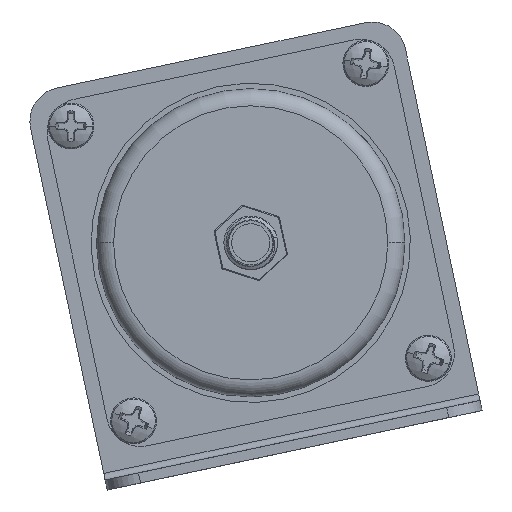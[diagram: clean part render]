
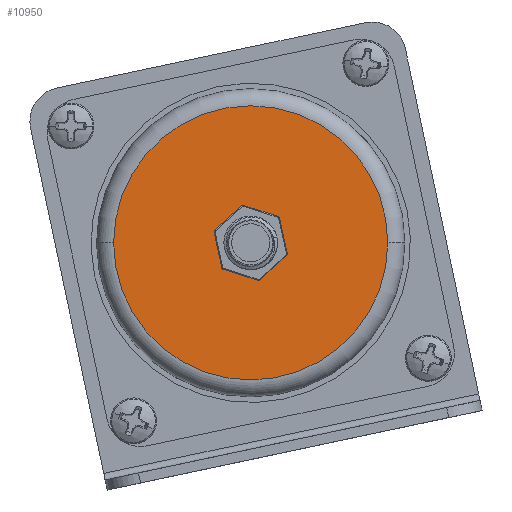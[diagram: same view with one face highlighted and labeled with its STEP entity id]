
A CAD part, left-side view. The second image highlights one B-rep face of the part: STEP entity #10950.
In plain terms, the highlighted planar face has unit normal (-1, 0, 0).
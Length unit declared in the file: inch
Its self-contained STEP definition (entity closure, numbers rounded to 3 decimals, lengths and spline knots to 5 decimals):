
#98 = CIRCLE ( 'NONE', #9293, 0.805 ) ;
#999 = CARTESIAN_POINT ( 'NONE',  ( 0., 0., 0. ) ) ;
#1105 = FACE_BOUND ( 'NONE', #11824, .T. ) ;
#1246 = DIRECTION ( 'NONE',  ( -1., 0., 0. ) ) ;
#1488 = FACE_OUTER_BOUND ( 'NONE', #3122, .T. ) ;
#2819 = CARTESIAN_POINT ( 'NONE',  ( 0., 0., 0. ) ) ;
#3122 = EDGE_LOOP ( 'NONE', ( #6843, #5979 ) ) ;
#4350 = VERTEX_POINT ( 'NONE', #16184 ) ;
#4702 = CARTESIAN_POINT ( 'NONE',  ( 0., 0., 0.16732 ) ) ;
#5442 = VERTEX_POINT ( 'NONE', #14411 ) ;
#5979 = ORIENTED_EDGE ( 'NONE', *, *, #14695, .T. ) ;
#6047 = CARTESIAN_POINT ( 'NONE',  ( 0., 0., 0. ) ) ;
#6413 = VERTEX_POINT ( 'NONE', #4702 ) ;
#6843 = ORIENTED_EDGE ( 'NONE', *, *, #15192, .T. ) ;
#7419 = ORIENTED_EDGE ( 'NONE', *, *, #16534, .F. ) ;
#7542 = CARTESIAN_POINT ( 'NONE',  ( 0., 0., 0. ) ) ;
#7563 = DIRECTION ( 'NONE',  ( 0., -1., 0. ) ) ;
#8026 = CARTESIAN_POINT ( 'NONE',  ( 0., -0.805, 0. ) ) ;
#8459 = DIRECTION ( 'NONE',  ( 0., -1., 0. ) ) ;
#8660 = CIRCLE ( 'NONE', #10873, 0.805 ) ;
#8944 = AXIS2_PLACEMENT_3D ( 'NONE', #7542, #13553, #16819 ) ;
#9293 = AXIS2_PLACEMENT_3D ( 'NONE', #999, #18852, #8459 ) ;
#9332 = AXIS2_PLACEMENT_3D ( 'NONE', #6047, #15071, #13563 ) ;
#10176 = CIRCLE ( 'NONE', #8944, 0.16732 ) ;
#10669 = DIRECTION ( 'NONE',  ( 0., -1., 0. ) ) ;
#10873 = AXIS2_PLACEMENT_3D ( 'NONE', #2819, #1246, #10669 ) ;
#10950 = ADVANCED_FACE ( 'NONE', ( #1488, #1105 ), #19522, .T. ) ;
#11095 = ORIENTED_EDGE ( 'NONE', *, *, #13145, .F. ) ;
#11824 = EDGE_LOOP ( 'NONE', ( #11095, #7419 ) ) ;
#12491 = CIRCLE ( 'NONE', #9332, 0.16732 ) ;
#13145 = EDGE_CURVE ( 'NONE', #6413, #5442, #10176, .T. ) ;
#13185 = DIRECTION ( 'NONE',  ( -1., 0., 0. ) ) ;
#13553 = DIRECTION ( 'NONE',  ( -1., 0., 0. ) ) ;
#13563 = DIRECTION ( 'NONE',  ( 0., 0., 1. ) ) ;
#14411 = CARTESIAN_POINT ( 'NONE',  ( 0., 0., -0.16732 ) ) ;
#14695 = EDGE_CURVE ( 'NONE', #4350, #15827, #8660, .T. ) ;
#15071 = DIRECTION ( 'NONE',  ( -1., 0., 0. ) ) ;
#15192 = EDGE_CURVE ( 'NONE', #15827, #4350, #98, .T. ) ;
#15575 = AXIS2_PLACEMENT_3D ( 'NONE', #19241, #13185, #7563 ) ;
#15827 = VERTEX_POINT ( 'NONE', #8026 ) ;
#16184 = CARTESIAN_POINT ( 'NONE',  ( 0., 0.805, 0. ) ) ;
#16534 = EDGE_CURVE ( 'NONE', #5442, #6413, #12491, .T. ) ;
#16819 = DIRECTION ( 'NONE',  ( 0., 0., 1. ) ) ;
#18852 = DIRECTION ( 'NONE',  ( -1., 0., 0. ) ) ;
#19241 = CARTESIAN_POINT ( 'NONE',  ( 0., 0., 0. ) ) ;
#19522 = PLANE ( 'NONE',  #15575 ) ;
